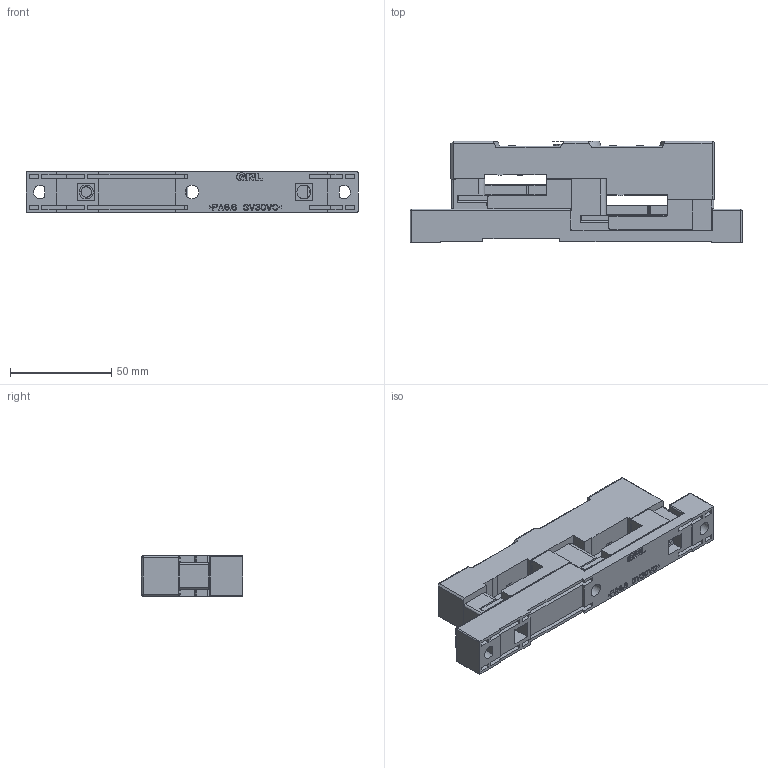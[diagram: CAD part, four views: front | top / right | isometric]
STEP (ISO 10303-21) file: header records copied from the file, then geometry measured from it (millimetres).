
FILE_DESCRIPTION (( 'STEP AP214' ), '1' );
FILE_NAME ('52356.STEP', '2020-11-23T02:29:17', ( '' ), ( '' ), 'SwSTEP 2.0', 'SolidWorks 2017', '' );
FILE_SCHEMA (( 'AUTOMOTIVE_DESIGN' ));
Length unit declared in the file: millimetre
Products named in the file (2): 52356
Bounding box: 164 x 50 x 20 mm (x, y, z)
Volume: 105384 mm3; surface area: 39668.9 mm2
Topology: 1 solids, 14 shells, 1833 faces, 5080 edges, 3231 vertices
Faces by surface type: plane 1195, cylinder 409, bspline 202, cone 24, torus 3
Full cylindrical faces by diameter (mm): 4 x2, 5.2 x1, 6.5 x5, 6.85 x2, 9 x2, 10 x4, 11.5 x4
Entity records: 81468 total; most frequent: CARTESIAN_POINT 17334, ORIENTED_EDGE 9998, DIRECTION 8584, EDGE_CURVE 4999, LINE 3740, VECTOR 3740, VERTEX_POINT 3208, AXIS2_PLACEMENT_3D 2422
